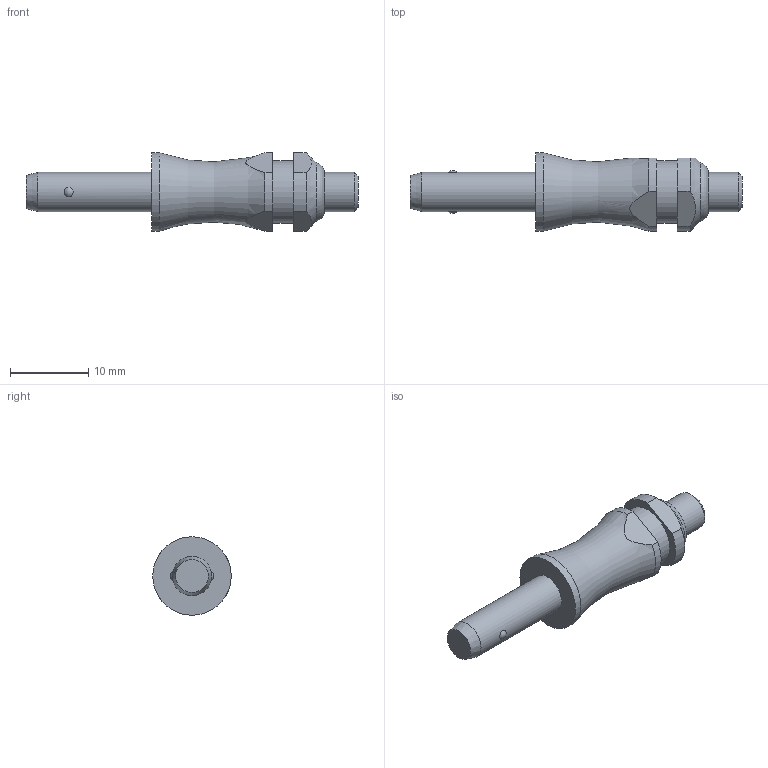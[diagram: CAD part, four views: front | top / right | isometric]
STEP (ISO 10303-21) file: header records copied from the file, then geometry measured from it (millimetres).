
FILE_DESCRIPTION( ( 'STEP AP203' ), '1' );
FILE_NAME( 'C:/Temp/Ganter_Step_05_03_2020/data/3_1/gn113_3/Stainless Steel-Ball lock pin GN 113.3-5-10 (deactivated).stp', '2020-03-12T08:18:08', ( 'License CC BY-ND 4.0' ), ( 'CADENAS' ), ' ', 'PARTsolutions', ' ' );
FILE_SCHEMA( ( 'CONFIG_CONTROL_DESIGN' ) );
Length unit declared in the file: millimetre
Products named in the file (1): _Stainless Steel-Ball lock pin GN 113.3-5-10 (deactivated)
Bounding box: 42.3 x 10 x 10 mm (x, y, z)
Volume: 1650.7 mm3; surface area: 1070.8 mm2
Topology: 1 solids, 1 shells, 29 faces, 61 edges, 40 vertices
Faces by surface type: plane 12, cylinder 10, cone 3, torus 2, sphere 2
Full cylindrical faces by diameter (mm): 5 x2, 7.9 x1, 10 x1
Entity records: 902 total; most frequent: CARTESIAN_POINT 272, DIRECTION 126, ORIENTED_EDGE 100, AXIS2_PLACEMENT_3D 54, EDGE_CURVE 50, EDGE_LOOP 44, VERTEX_POINT 38, FACE_OUTER_BOUND 35
